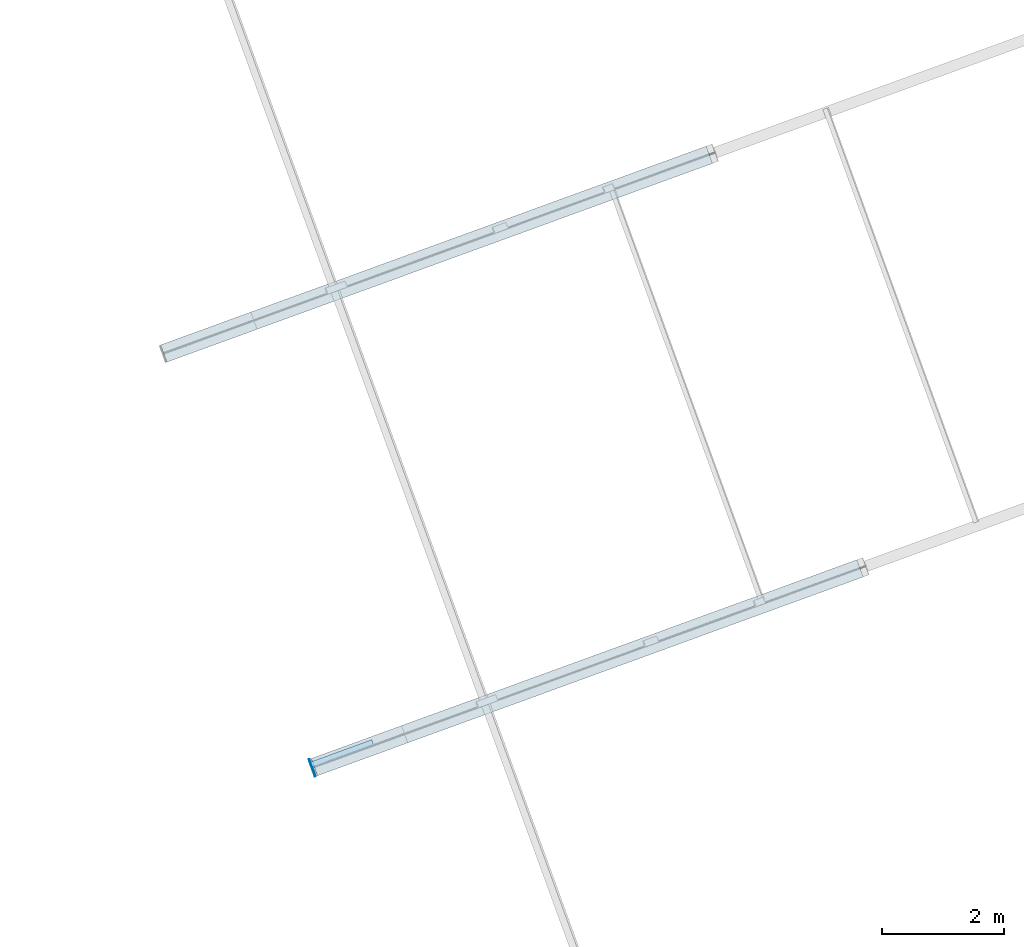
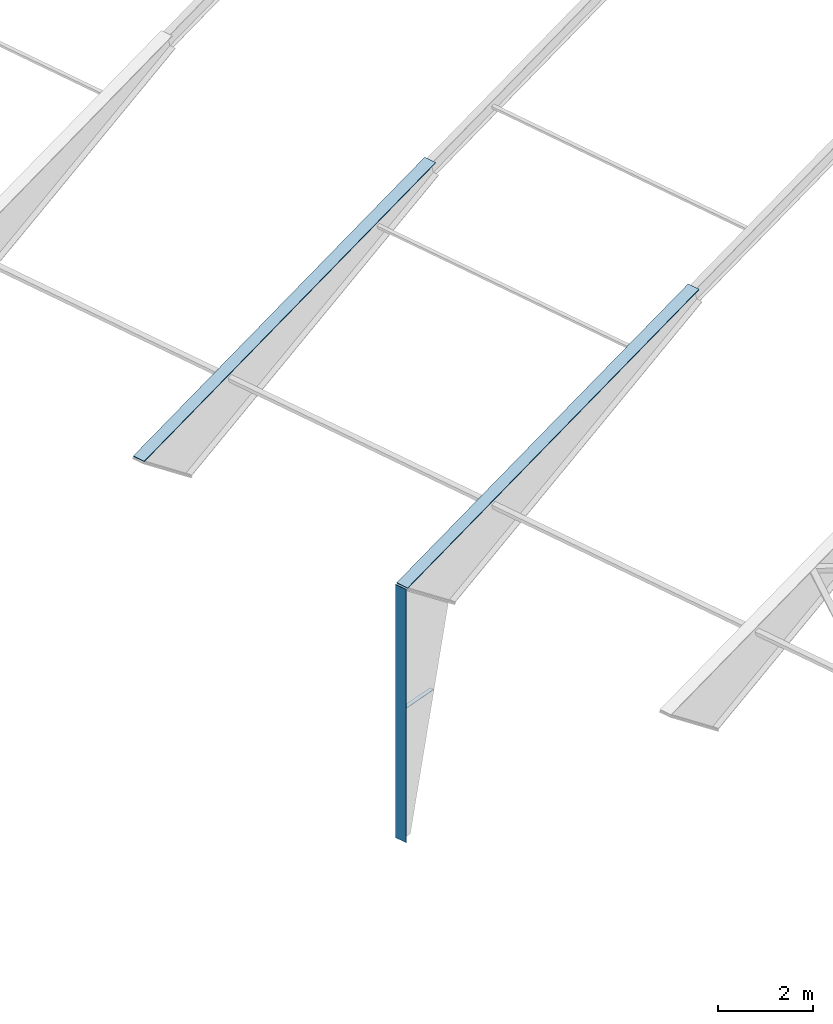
# One storey, part 10 of 17: 4 plates, 4 elements without a shape of their own.
"""IFC4 building model written with IfcOpenShell, lengths in millimetres."""

from ifc_helpers import new_model, si_unit, direction, frame, origin_with_axes, place, context, subcontext, project, spatial, polygons, material, element, aggregate, save


model = new_model("IFC4")

# Units and contexts
model_context = context("Model", 3, precision=0.2, world=frame((203566.813, 116264.779, 0.0), z_axis=(0.0, 0.0, 1.0), x_axis=(1.0, 0.0, 0.0)), true_north=direction((-0.9396138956, -0.3422363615)))
body_context = subcontext(model_context, "Body", "Model", "MODEL_VIEW")
ifc_project = project(units=[si_unit("LENGTHUNIT", "METRE", prefix="MILLI"), si_unit("AREAUNIT", "SQUARE_METRE"), si_unit("VOLUMEUNIT", "CUBIC_METRE"), si_unit("MASSUNIT", "GRAM", prefix="KILO"), si_unit("TIMEUNIT", "SECOND"), si_unit("PLANEANGLEUNIT", "RADIAN"), si_unit("SOLIDANGLEUNIT", "STERADIAN"), si_unit("THERMODYNAMICTEMPERATUREUNIT", "DEGREE_CELSIUS"), si_unit("LUMINOUSINTENSITYUNIT", "LUMEN")], contexts=[model_context])

# Site, building, storey
site_placement = place(None, origin_with_axes())
site = spatial("IfcSite", under=ifc_project, at=site_placement, Name="Nobelprojektet", CompositionType="ELEMENT")
building_placement = place(site_placement, origin_with_axes())
building = spatial("IfcBuilding", under=site, at=building_placement, Name="Hall B", CompositionType="ELEMENT")
storey_placement = place(building_placement, frame((0.0, 0.0, 136000.0), z_axis=(0.0, 0.0, 1.0), x_axis=(1.0, 0.0, 0.0)))
storey = spatial("IfcBuildingStorey", under=building, at=storey_placement, Name="Plan_2", CompositionType="ELEMENT", Elevation=136000.0)

# Assembly, plate
assembly_1_placement = place(storey_placement, frame((140657.46369, 139982.2656, 3682.47747), z_axis=(0.2431885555, 0.0885769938, -0.9659262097), x_axis=(0.9075966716, 0.3305755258, 0.2588206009)))
assembly_1 = element("IfcElementAssembly", 1, at=assembly_1_placement, inside=storey, Name="BEF. STOMME", PredefinedType="NOTDEFINED")
ifc_material = material(Name="S355J2", Category="STEEL")
plate_1_placement = place(assembly_1_placement, frame((9833.15093, 0.0, 0.0), z_axis=(-1.0, 0.0, 0.0), x_axis=(0.0, 0.0, 1.0)))
plate_1 = element("IfcPlate", 2, at=plate_1_placement, material=ifc_material, Name="BEF. STOMME", PredefinedType="NOTDEFINED", context=body_context, shape_type="Tessellation", body=[
    polygons([(-10.0, -149.99999, 9833.15093), (-10.0, 150.00001, 9833.15093), (-10.0, 150.0, 0.0), (-10.0, -150.0, 0.0), (10.0, 150.00001, 9833.15093), (10.0, 150.0, 0.0), (10.0, -149.99999, 9833.15093), (10.0, -150.0, 0.0)], [[[1, 2, 3, 4]], [[2, 5, 6, 3]], [[5, 7, 8, 6]], [[7, 1, 4, 8]], [[6, 8, 4, 3]], [[7, 5, 2, 1]]], closed=True),
])
aggregate(assembly_1, [plate_1])

assembly_2_placement = place(storey_placement, frame((143084.60651, 133203.58324, -2800.0114), z_axis=(0.9396136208, 0.3422371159, 0.0), x_axis=(0.0, 0.0, 1.0)))
assembly_2 = element("IfcElementAssembly", 3, at=assembly_2_placement, inside=storey, Name="BEF. STOMME", PredefinedType="NOTDEFINED")
plate_2_placement = place(assembly_2_placement, frame((6473.48022, 0.0, 0.0), z_axis=(-1.0, 0.0, 0.0), x_axis=(0.0, 0.0, 1.0)))
plate_2 = element("IfcPlate", 4, at=plate_2_placement, material=ifc_material, Name="BEF. STOMME", PredefinedType="NOTDEFINED", context=body_context, shape_type="Tessellation", body=[
    polygons([(-7.5, -150.0, 6473.48022), (-7.5, 150.0, 6473.48022), (-7.5, 150.0, 0.0), (-7.5, -150.0, 0.0), (7.5, 150.0, 6473.48022), (7.5, 150.0, 0.0), (7.5, -150.0, 6473.48022), (7.5, -150.0, 0.0)], [[[1, 2, 3, 4]], [[2, 5, 6, 3]], [[5, 7, 8, 6]], [[7, 1, 4, 8]], [[6, 8, 4, 3]], [[7, 5, 2, 1]]], closed=True),
])
aggregate(assembly_2, [plate_2])

assembly_3_placement = place(storey_placement, frame((143122.5073, 133217.38791, 3682.47747), z_axis=(0.2431885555, 0.0885769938, -0.9659262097), x_axis=(0.9075966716, 0.3305755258, 0.2588206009)))
assembly_3 = element("IfcElementAssembly", 5, at=assembly_3_placement, inside=storey, Name="BEF. STOMME", PredefinedType="NOTDEFINED")
plate_3_placement = place(assembly_3_placement, frame((9833.15093, 0.0, 0.0), z_axis=(-1.0, 0.0, 0.0), x_axis=(0.0, 0.0, 1.0)))
plate_3 = element("IfcPlate", 6, at=plate_3_placement, material=ifc_material, Name="BEF. STOMME", PredefinedType="NOTDEFINED", context=body_context, shape_type="Tessellation", body=[
    polygons([(-10.0, -149.99999, 9833.15093), (-10.0, 150.00001, 9833.15093), (-10.0, 150.0, 0.0), (-10.0, -150.0, 0.0), (10.0, 150.00001, 9833.15093), (10.0, 150.0, 0.0), (10.0, -149.99999, 9833.15093), (10.0, -150.0, 0.0)], [[[1, 2, 3, 4]], [[2, 5, 6, 3]], [[5, 7, 8, 6]], [[7, 1, 4, 8]], [[6, 8, 4, 3]], [[7, 5, 2, 1]]], closed=True),
])
aggregate(assembly_3, [plate_3])

assembly_4_placement = place(storey_placement, frame((143074.54118, 133253.13049, 472.48799), z_axis=(0.0, 0.0, -1.0), x_axis=(0.9396136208, 0.3422371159, 0.0)))
assembly_4 = element("IfcElementAssembly", 7, at=assembly_4_placement, inside=storey, Name="BEF. STOMME", PredefinedType="NOTDEFINED")
plate_4_placement = place(assembly_4_placement, frame((1065.0, 0.0, 0.0), z_axis=(-1.0, 0.0, 0.0), x_axis=(0.0, 0.0, 1.0)))
plate_4 = element("IfcPlate", 8, at=plate_4_placement, material=ifc_material, Name="BEF. STOMME", PredefinedType="NOTDEFINED", context=body_context, shape_type="Tessellation", body=[
    polygons([(-7.5, -50.0, 1065.0), (-7.5, 50.0, 1065.0), (-7.5, 50.0, 0.0), (-7.5, -50.0, 0.0), (7.5, 50.0, 1065.0), (7.5, 50.0, 0.0), (7.5, -50.0, 1065.0), (7.5, -50.0, 0.0)], [[[1, 2, 3, 4]], [[2, 5, 6, 3]], [[5, 7, 8, 6]], [[7, 1, 4, 8]], [[6, 8, 4, 3]], [[7, 5, 2, 1]]], closed=True),
])
aggregate(assembly_4, [plate_4])

save(model, "model.ifc")
